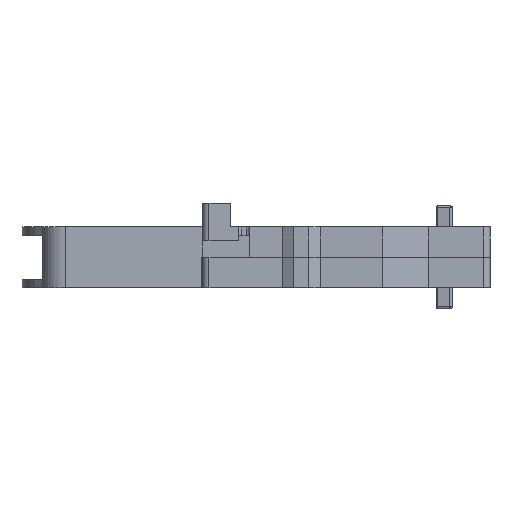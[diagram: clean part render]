
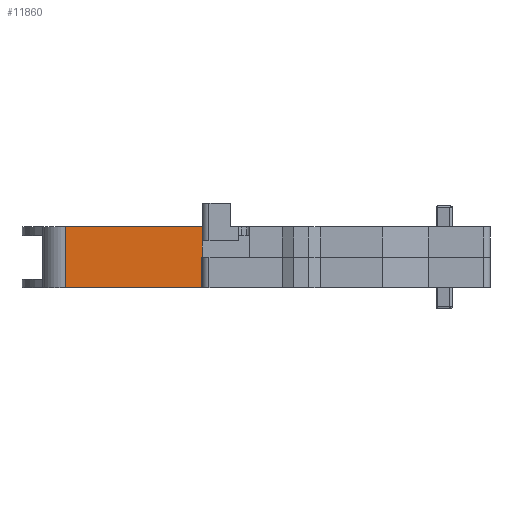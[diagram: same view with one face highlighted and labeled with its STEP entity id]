
A CAD part, left-side view. The second image highlights one B-rep face of the part: STEP entity #11860.
In plain terms, the highlighted planar face has unit normal (-1, 0, 0).
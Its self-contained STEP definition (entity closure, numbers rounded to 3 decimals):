
#7665=DIRECTION('',(0.,-1.,0.));
#7666=VECTOR('',#7665,0.101);
#7667=CARTESIAN_POINT('',(17.211,44.85,174.744));
#7668=LINE('',#7667,#7666);
#7713=DIRECTION('',(0.,0.,1.));
#7714=VECTOR('',#7713,4.536);
#7715=CARTESIAN_POINT('',(17.211,44.85,170.208));
#7716=LINE('',#7715,#7714);
#7729=DIRECTION('',(0.,-1.,0.));
#7730=VECTOR('',#7729,20.21);
#7731=CARTESIAN_POINT('',(17.211,65.06,170.208));
#7732=LINE('',#7731,#7730);
#7767=DIRECTION('',(0.,0.,-1.));
#7768=VECTOR('',#7767,9.072);
#7769=CARTESIAN_POINT('',(17.211,65.06,179.28));
#7770=LINE('',#7769,#7768);
#7809=DIRECTION('',(0.,1.,0.));
#7810=VECTOR('',#7809,20.311);
#7811=CARTESIAN_POINT('',(17.211,44.749,179.28));
#7812=LINE('',#7811,#7810);
#8218=DIRECTION('',(0.,0.,1.));
#8219=VECTOR('',#8218,4.536);
#8220=CARTESIAN_POINT('',(17.211,44.749,174.744));
#8221=LINE('',#8220,#8219);
#10760=CARTESIAN_POINT('',(17.211,44.85,174.744));
#10761=VERTEX_POINT('',#10760);
#10762=CARTESIAN_POINT('',(17.211,44.749,174.744));
#10763=VERTEX_POINT('',#10762);
#10784=CARTESIAN_POINT('',(17.211,44.85,170.208));
#10786=VERTEX_POINT('',#10784);
#10790=CARTESIAN_POINT('',(17.211,65.06,170.208));
#10791=VERTEX_POINT('',#10790);
#10802=CARTESIAN_POINT('',(17.211,65.06,179.28));
#10803=VERTEX_POINT('',#10802);
#10804=CARTESIAN_POINT('',(17.211,44.749,179.28));
#10805=VERTEX_POINT('',#10804);
#11844=CARTESIAN_POINT('',(17.211,44.85,176.256));
#11845=DIRECTION('',(1.,0.,0.));
#11846=DIRECTION('',(0.,0.,1.));
#11847=AXIS2_PLACEMENT_3D('',#11844,#11845,#11846);
#11848=PLANE('',#11847);
#11849=ORIENTED_EDGE('',*,*,#11810,.F.);
#11850=ORIENTED_EDGE('',*,*,#11826,.F.);
#11852=ORIENTED_EDGE('',*,*,#11851,.F.);
#11854=ORIENTED_EDGE('',*,*,#11853,.F.);
#11856=ORIENTED_EDGE('',*,*,#11855,.F.);
#11857=ORIENTED_EDGE('',*,*,#11747,.F.);
#11858=EDGE_LOOP('',(#11849,#11850,#11852,#11854,#11856,#11857));
#11859=FACE_OUTER_BOUND('',#11858,.F.);
#11860=ADVANCED_FACE('',(#11859),#11848,.F.);
#11747=EDGE_CURVE('',#10761,#10763,#7668,.T.);
#11810=EDGE_CURVE('',#10786,#10761,#7716,.T.);
#11826=EDGE_CURVE('',#10791,#10786,#7732,.T.);
#11851=EDGE_CURVE('',#10803,#10791,#7770,.T.);
#11853=EDGE_CURVE('',#10805,#10803,#7812,.T.);
#11855=EDGE_CURVE('',#10763,#10805,#8221,.T.);
